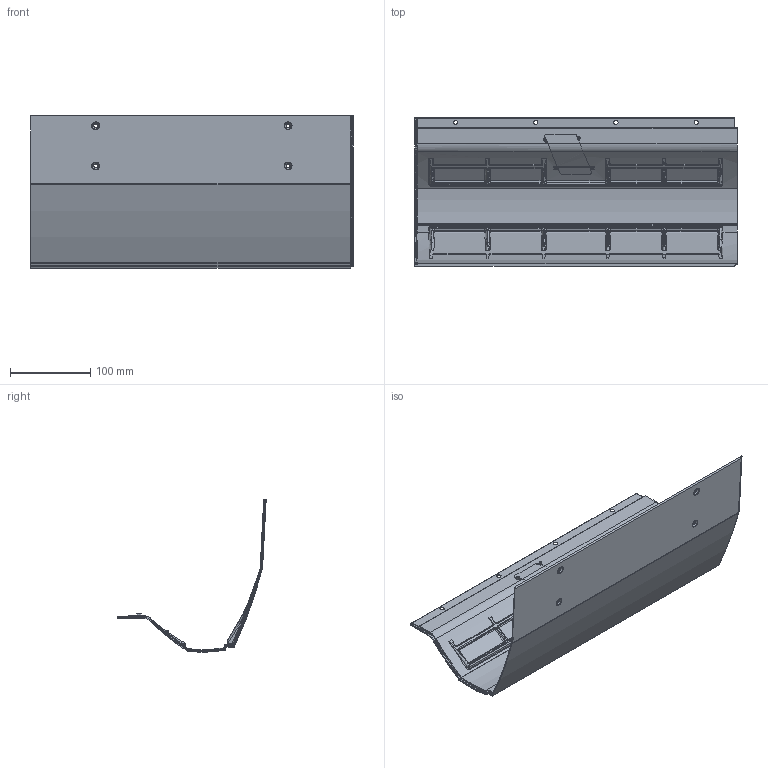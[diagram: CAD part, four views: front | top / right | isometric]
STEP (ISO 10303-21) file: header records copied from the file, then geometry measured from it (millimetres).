
FILE_DESCRIPTION((''),'2;1');
FILE_NAME('2198T-AS-C-A-04-U_ASM','2024-08-21T15:29:08',('RRajan1'),('Rockwell Automation'),'CREO PARAMETRIC BY PTC INC, 2020281','CREO PARAMETRIC BY PTC INC, 2020281','');
FILE_SCHEMA(('CONFIG_CONTROL_DESIGN'));
Length unit declared in the file: millimetre
Products named in the file (4): W0000106869_1_1; W0000106869_1_2; W0000106869_1_ASM; 2198T-AS-C-A-04-U_ASM
Assembly tree (3 placements, depth 3):
  2198T-AS-C-A-04-U_ASM
    W0000106869_1_ASM
      W0000106869_1_1
      W0000106869_1_2
Bounding box: 402.86 x 184.93 x 190.04 mm (x, y, z)
Volume: 449708.4 mm3; surface area: 293953.6 mm2
Topology: 2 solids, 2 shells, 923 faces, 2277 edges, 1312 vertices
Faces by surface type: cylinder 290, bspline 271, plane 145, torus 97, sphere 63, cone 49, extrusion 8
Entity records: 53588 total; most frequent: CARTESIAN_POINT 34859, ORIENTED_EDGE 4450, DIRECTION 3076, EDGE_CURVE 2225, VERTEX_POINT 1312, AXIS2_PLACEMENT_3D 1238, B_SPLINE_CURVE_WITH_KNOTS 1056, EDGE_LOOP 947
